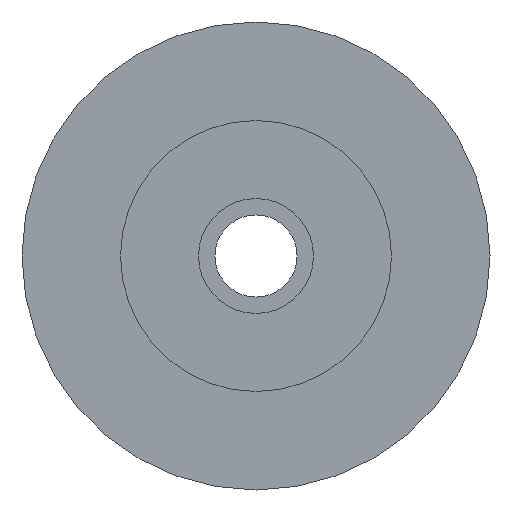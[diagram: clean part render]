
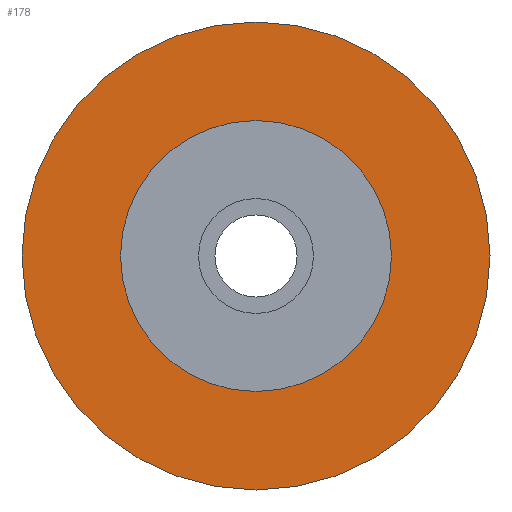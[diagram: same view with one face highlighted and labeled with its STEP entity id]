
A CAD part, front view. The second image highlights one B-rep face of the part: STEP entity #178.
In plain terms, the highlighted planar face has unit normal (0, -1, 0).
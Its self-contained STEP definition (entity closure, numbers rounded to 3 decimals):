
#28=FACE_BOUND('',#65,.T.);
#47=FACE_OUTER_BOUND('',#64,.T.);
#64=EDGE_LOOP('',(#144));
#65=EDGE_LOOP('',(#145));
#92=CIRCLE('',#201,41.25);
#93=CIRCLE('',#203,71.25);
#108=VERTEX_POINT('',#304);
#109=VERTEX_POINT('',#307);
#124=EDGE_CURVE('',#108,#108,#92,.T.);
#125=EDGE_CURVE('',#109,#109,#93,.T.);
#144=ORIENTED_EDGE('',*,*,#125,.F.);
#145=ORIENTED_EDGE('',*,*,#124,.T.);
#170=PLANE('',#202);
#178=ADVANCED_FACE('',(#47,#28),#170,.T.);
#201=AXIS2_PLACEMENT_3D('',#305,#243,#244);
#202=AXIS2_PLACEMENT_3D('',#306,#245,#246);
#203=AXIS2_PLACEMENT_3D('',#308,#247,#248);
#243=DIRECTION('center_axis',(0.,1.,0.));
#244=DIRECTION('ref_axis',(1.,0.,0.));
#245=DIRECTION('center_axis',(0.,-1.,0.));
#246=DIRECTION('ref_axis',(0.,0.,-1.));
#247=DIRECTION('center_axis',(0.,1.,0.));
#248=DIRECTION('ref_axis',(1.,0.,0.));
#304=CARTESIAN_POINT('',(0.,-29.75,41.25));
#305=CARTESIAN_POINT('Origin',(0.,-29.75,0.));
#306=CARTESIAN_POINT('Origin',(0.,-29.75,71.25));
#307=CARTESIAN_POINT('',(0.,-29.75,71.25));
#308=CARTESIAN_POINT('Origin',(0.,-29.75,0.));
